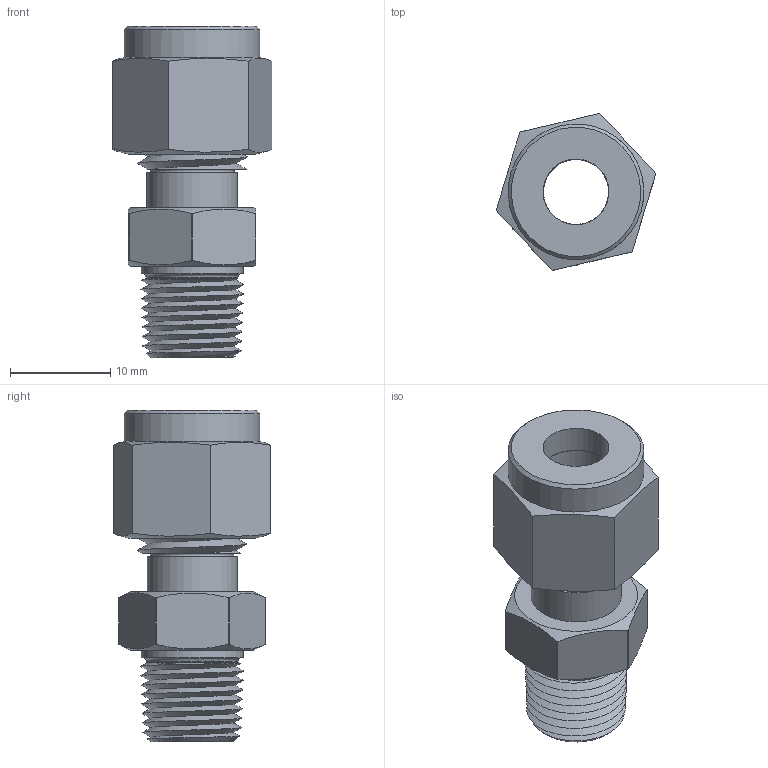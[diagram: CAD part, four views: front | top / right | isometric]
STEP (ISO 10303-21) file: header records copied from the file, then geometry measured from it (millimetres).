
FILE_DESCRIPTION(/* description */ (''),/* implementation_level */ '2;1');
FILE_NAME(/* name */ 'C:\Users\JN\Documents\CAD Drawings\The Sensor Connection\3D\CF\CF-0250-18-NPT\3D\CF-250-18-NPT.stp',/* time_stamp */ '2017-11-01T11:04:48-04:00',/* author */ ('JN'),/* organization */ (''),/* preprocessor_version */ 'ST-DEVELOPER v15.6',/* originating_system */ 'Autodesk Inventor 2015',/* authorisation */ '');
FILE_SCHEMA (('AUTOMOTIVE_DESIGN { 1 0 10303 214 3 1 1 }'));
Length unit declared in the file: inch
Products named in the file (5): CF-0250-18-NPT Threaded Body; CF-0250-18-NPT Top Ferrule; CF-0250-NPT Cap; CF-0250-NPT Bottom Ferrule; CF-250-18-NPT
Assembly tree (4 placements, depth 2):
  CF-250-18-NPT
    CF-0250-18-NPT Threaded Body
    CF-0250-18-NPT Top Ferrule
    CF-0250-NPT Cap
    CF-0250-NPT Bottom Ferrule
Bounding box: 15.93 x 15.65 x 33.03 mm (x, y, z)
Volume: 2556.5 mm3; surface area: 3842.5 mm2
Topology: 4 solids, 4 shells, 79 faces, 189 edges, 125 vertices
Faces by surface type: plane 34, cylinder 21, cone 13, bspline 7, torus 4
Full cylindrical faces by diameter (mm): 6.477 x1, 6.553 x2, 6.604 x1, 7.62 x1, 7.722 x1, 9.017 x2, 9.112 x1, 9.144 x1, 9.568 x1, 10.16 x1, 11.772 x1, 13.525 x1
Entity records: 5739 total; most frequent: CARTESIAN_POINT 4049, DIRECTION 310, ORIENTED_EDGE 300, EDGE_CURVE 150, AXIS2_PLACEMENT_3D 143, EDGE_LOOP 122, VERTEX_POINT 114, FACE_OUTER_BOUND 79
